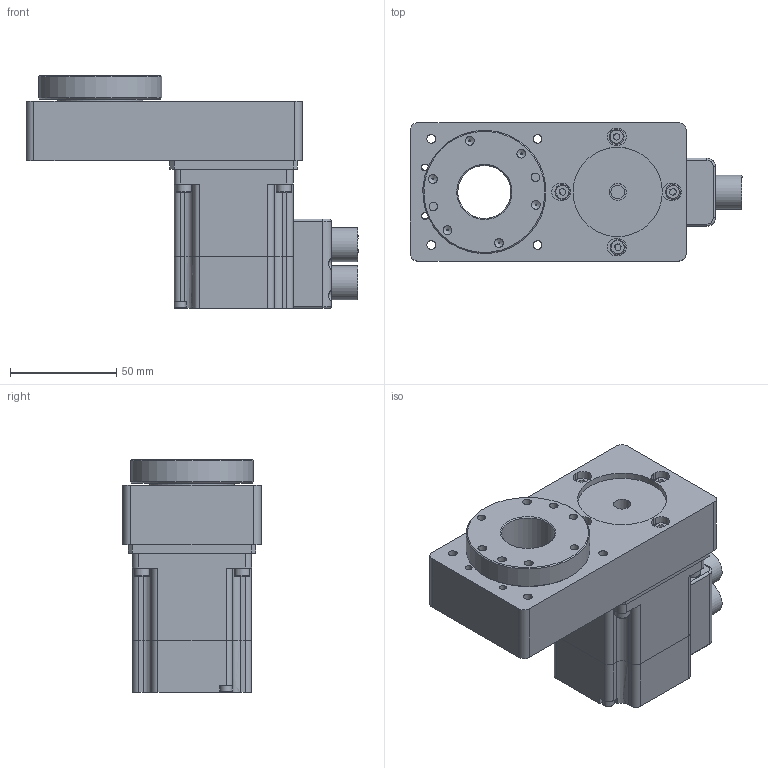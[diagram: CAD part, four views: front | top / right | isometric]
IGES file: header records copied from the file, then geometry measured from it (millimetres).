
Global section: file name: No Iges File Name specified; native system: Autodesk Inventor 2012; preprocessor: AutoDesk Inventor Iges Exporter R2012; author: disegnatore3; date: 20170117.150001; units: millimetre
Bounding box: 156.2 x 65 x 109.5 mm (x, y, z)
Volume: 454185.8 mm3; surface area: 96790.3 mm2
Topology: 22 solids, 22 shells, 514 faces, 1115 edges, 727 vertices
Faces by surface type: plane 250, revolution 140, cylinder 89, torus 18, cone 17
Full cylindrical faces by diameter (mm): 0.5 x10, 2 x10, 3 x6, 4 x8, 5.5 x6, 6.35 x2, 7 x8, 12 x2, 16 x2, 38.1 x1, 40 x1, 58 x1
